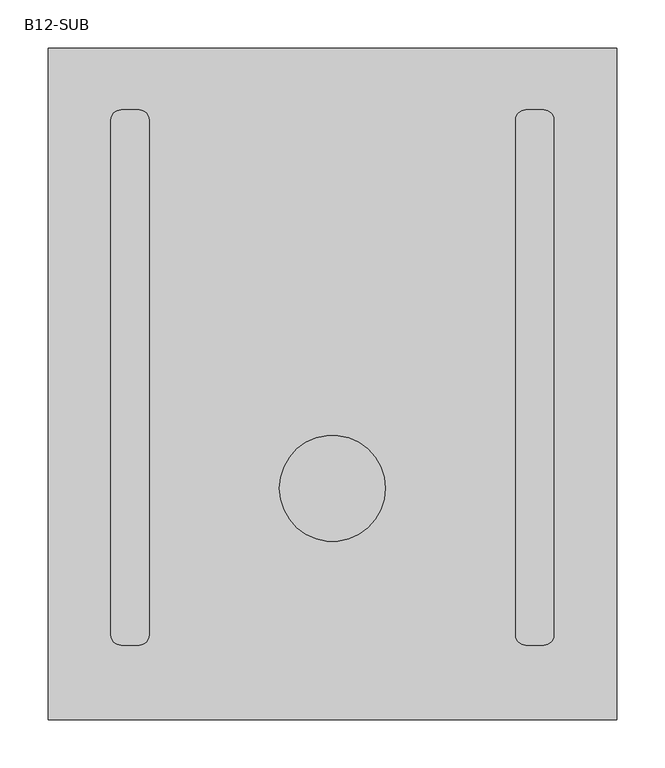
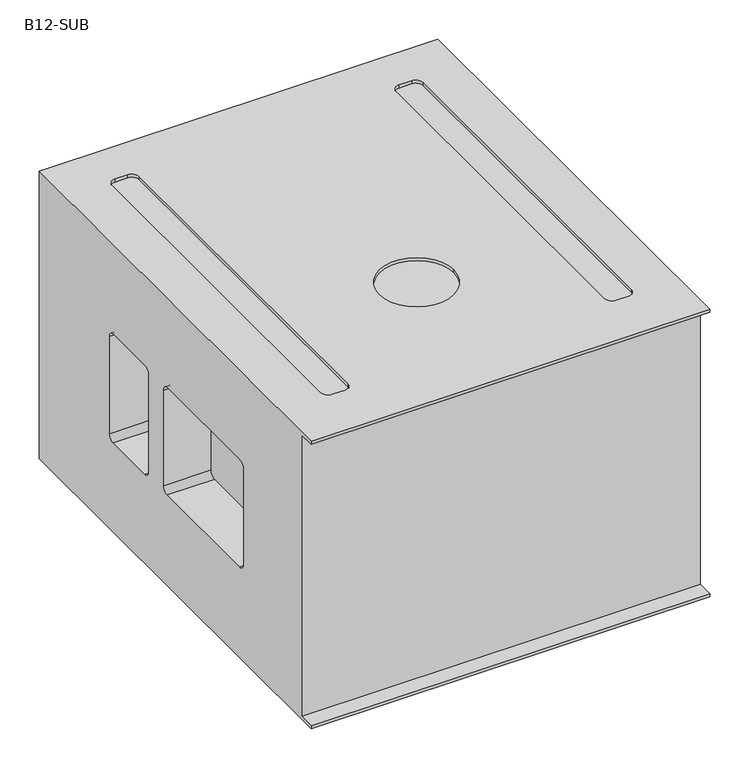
"""IFC4 building model written with IfcOpenShell, lengths in millimetres: proxy geometry, d&b CL-Series B12-SUB : B12-SUB."""

import ifcopenshell
import ifcopenshell.guid

model = None  # the IFC model being written
_history = None  # IfcOwnerHistory: only IFC2X3 demands one
_inside = {}  # id of a spatial element -> (the spatial element, [elements in it])
_under = {}  # id of a project, library or spatial element -> (it, [spatial elements below it])
_declared = {}  # id of a project -> (the project, [libraries it declares])
_typed = {}  # id of a type object -> (the type object, [elements of that type])
_made_of = {}  # id of a material, layer set ... -> (it, [elements and type objects made of it])


def new_model(schema):
    """Start an empty IFC model of exactly this schema.

    Asked for "IFC4X3", IfcOpenShell would pick the latest addendum, in which some entities
    have other attributes; the version numbers below select the first issue.
    IFC2X3 requires an IfcOwnerHistory on every rooted entity: one is made here for all.
    """
    global model, _history
    if schema == "IFC4X3":
        model = ifcopenshell.file(schema_version=(4, 3, 0, 0))
    else:
        model = ifcopenshell.file(schema=schema)
    _inside.clear()
    _under.clear()
    _declared.clear()
    _typed.clear()
    _made_of.clear()
    _history = None
    if model.schema == "IFC2X3":
        org = make("IfcOrganization", Name="unknown")
        user = make(
            "IfcPersonAndOrganization",
            ThePerson=make("IfcPerson", FamilyName="unknown"),
            TheOrganization=org,
        )
        app = make(
            "IfcApplication",
            ApplicationDeveloper=org,
            Version="unknown",
            ApplicationFullName="unknown",
            ApplicationIdentifier="unknown",
        )
        _history = make(
            "IfcOwnerHistory",
            OwningUser=user,
            OwningApplication=app,
            ChangeAction="ADDED",
            CreationDate=0,
        )
    return model


def make(cls, **values):
    """One entity of the class cls with the attributes given. An attribute that is None is left unset."""
    return model.create_entity(
        cls, **{name: value for name, value in values.items() if value is not None}
    )


def rooted(cls, **values):
    """An entity with a GlobalId (a new one), such as an element, a storey or a relation."""
    return make(cls, GlobalId=ifcopenshell.guid.new(), OwnerHistory=_history, **values)


def si_unit(unit_type, name, prefix=None):
    """IfcSIUnit, for example si_unit("LENGTHUNIT", "METRE", prefix="MILLI")."""
    return make("IfcSIUnit", UnitType=unit_type, Prefix=prefix, Name=name)


def assignment(units):
    """IfcUnitAssignment: the units of a project."""
    return None if units is None else make("IfcUnitAssignment", Units=units)


def point(xyz):
    """IfcCartesianPoint."""
    return None if xyz is None else make("IfcCartesianPoint", Coordinates=xyz)


def direction(xyz):
    """IfcDirection."""
    return None if xyz is None else make("IfcDirection", DirectionRatios=xyz)


def frame(location, z_axis=None, x_axis=None):
    """IfcAxis2Placement3D, a coordinate frame: its origin and axes. An axis left out is left unset."""
    return make(
        "IfcAxis2Placement3D",
        Location=point(location),
        Axis=direction(z_axis),
        RefDirection=direction(x_axis),
    )


def origin():
    """The frame at (0, 0, 0) with its axes left unset."""
    return frame((0.0, 0.0, 0.0))


def place(relative_to, where):
    """IfcLocalPlacement: puts the frame where relative to a parent placement (None: the world)."""
    return make(
        "IfcLocalPlacement", PlacementRelTo=relative_to, RelativePlacement=where
    )


def context(
    kind, dimensions, precision=None, world=None, true_north=None, identifier=None
):
    """IfcGeometricRepresentationContext, for example the 3D "Model" context."""
    return make(
        "IfcGeometricRepresentationContext",
        ContextIdentifier=identifier,
        ContextType=kind,
        CoordinateSpaceDimension=dimensions,
        Precision=precision,
        WorldCoordinateSystem=world,
        TrueNorth=true_north,
    )


def project(units=None, contexts=None):
    """IfcProject with its units and contexts."""
    return rooted(
        "IfcProject",
        Name="project",
        RepresentationContexts=contexts,
        UnitsInContext=assignment(units),
    )


def spatial(cls, under=None, at=None, **own):
    """A site, building, storey or space (cls), placed at a placement, below another one or the project."""
    s = rooted(cls, ObjectPlacement=at, **own)
    if under is not None:
        _under.setdefault(under.id(), (under, []))[1].append(s)
    return s


def polyline(points):
    """IfcPolyline through the points."""
    return make("IfcPolyline", Points=[point(p) for p in points])


def circle_curve(where, radius):
    """IfcCircle in the frame where."""
    return make("IfcCircle", Position=where, Radius=radius)


def shape(context_of_items, identifier, shape_type, items):
    """IfcShapeRepresentation: the items that make up one representation, for example the "Body"."""
    return make(
        "IfcShapeRepresentation",
        ContextOfItems=context_of_items,
        RepresentationIdentifier=identifier,
        RepresentationType=shape_type,
        Items=items,
    )


def source(mapping_origin, context_of_items, identifier, shape_type, items):
    """IfcRepresentationMap: a shape defined once, which mapped items show again and again."""
    return make(
        "IfcRepresentationMap",
        MappingOrigin=mapping_origin,
        MappedRepresentation=shape(context_of_items, identifier, shape_type, items),
    )


def transform(
    local_origin,
    x_axis=None,
    y_axis=None,
    z_axis=None,
    scale=None,
    scale2=None,
    scale3=None,
    uniform=True,
):
    """IfcCartesianTransformationOperator3D, or its non-uniform kind. x_axis, y_axis, z_axis: its Axis1, 2, 3."""
    if uniform:
        return make(
            "IfcCartesianTransformationOperator3D",
            Axis1=direction(x_axis),
            Axis2=direction(y_axis),
            LocalOrigin=point(local_origin),
            Scale=scale,
            Axis3=direction(z_axis),
        )
    return make(
        "IfcCartesianTransformationOperator3DnonUniform",
        Axis1=direction(x_axis),
        Axis2=direction(y_axis),
        LocalOrigin=point(local_origin),
        Scale=scale,
        Axis3=direction(z_axis),
        Scale2=scale2,
        Scale3=scale3,
    )


def mapped(mapping_source, mapping_target):
    """IfcMappedItem: shows the shape of a source again, moved by a transform."""
    return make(
        "IfcMappedItem", MappingSource=mapping_source, MappingTarget=mapping_target
    )


def made_of(thing, what):
    """Note that an element or type object is made of a material, layer set ...; save() writes the relation."""
    if what is not None:
        _made_of.setdefault(what.id(), (what, []))[1].append(thing)
    return thing


def element(
    cls,
    number,
    at=None,
    inside=None,
    cuts=None,
    type_object=None,
    material=None,
    context=None,
    identifier="Body",
    shape_type=None,
    held_by="IfcProductDefinitionShape",
    body=None,
    shapes=None,
    **own,
):
    """One element of the class cls, such as IfcWall. Its Tag is "e" and its number.

    at: its placement. inside: the storey or other place that contains it. cuts: it is an
    opening in that element (IfcRelVoidsElement). A single representation is given by context,
    identifier, shape_type and body (its items); several are given by shapes. held_by: the class
    of the entity that holds the representations. save() writes the other relations.
    """
    e = rooted(cls, Tag="e%d" % number, ObjectPlacement=at, **own)
    if body is not None:
        shapes = [shape(context, identifier, shape_type, body)]
    if shapes is not None:
        e.Representation = make(held_by, Representations=shapes)
    if inside is not None:
        _inside.setdefault(inside.id(), (inside, []))[1].append(e)
    if cuts is not None:
        rooted(
            "IfcRelVoidsElement", RelatingBuildingElement=cuts, RelatedOpeningElement=e
        )
    if type_object is not None:
        _typed.setdefault(type_object.id(), (type_object, []))[1].append(e)
    return made_of(e, material)


def aggregate(whole, parts):
    """IfcRelAggregates: a whole, such as a stair, and the parts it consists of."""
    return rooted("IfcRelAggregates", RelatingObject=whole, RelatedObjects=parts)


def save(model, path):
    """Write the relations noted so far, then the file.

    IfcRelAggregates (storeys below a building ...), IfcRelContainedInSpatialStructure (elements
    in a storey), IfcRelDefinesByType, IfcRelAssociatesMaterial and IfcRelDeclares: one each for
    every whole, place, type object, material and project.
    """
    for whole, parts in _under.values():
        aggregate(whole, parts)
    for where, things in _inside.values():
        rooted(
            "IfcRelContainedInSpatialStructure",
            RelatedElements=things,
            RelatingStructure=where,
        )
    for kind, things in _typed.values():
        rooted("IfcRelDefinesByType", RelatedObjects=things, RelatingType=kind)
    for what, things in _made_of.values():
        rooted("IfcRelAssociatesMaterial", RelatedObjects=things, RelatingMaterial=what)
    for by, libraries in _declared.values():
        rooted("IfcRelDeclares", RelatingContext=by, RelatedDefinitions=libraries)
    model.write(path)


def plane_surface(at):
    """IfcPlane: the flat surface through the origin of the frame at, square to its z axis."""
    return make("IfcPlane", Position=at)


def revolved_surface(curve, axis_point, axis_direction):
    """IfcSurfaceOfRevolution: the curve turned about the line through axis_point along axis_direction."""
    return make(
        "IfcSurfaceOfRevolution",
        SweptCurve=make("IfcArbitraryOpenProfileDef", ProfileType="CURVE", Curve=curve),
        AxisPosition=make("IfcAxis1Placement", Location=point(axis_point), Axis=direction(axis_direction)),
    )


def advanced_brep(points, edges, surfaces, faces):
    """IfcAdvancedBrep: a solid bounded by faces that lie on surfaces and meet in shared edges.

    An edge is (start, end): straight between two places in points (the first is 0);
    or (start, end, curve); or (start, end, curve, False) where it runs against its curve.
    A face is (place in surfaces, loops), or (place, loops, False) where it looks against
    its surface's normal. A loop lists edges by number (the first is 1), with a minus sign
    where the edge is run from its end to its start. The first loop is the outer one.
    """
    corners = [point(p) for p in points]
    vertices = [make("IfcVertexPoint", VertexGeometry=c) for c in corners]
    made = []
    for start, end, *more in edges:
        made.append(
            make(
                "IfcEdgeCurve",
                EdgeStart=vertices[start],
                EdgeEnd=vertices[end],
                EdgeGeometry=more[0] if more else make("IfcPolyline", Points=[corners[start], corners[end]]),
                SameSense=more[1] if len(more) > 1 else True,
            )
        )
    hull = []
    for where, loops, *sense in faces:
        bounds = []
        for j, loop in enumerate(loops):
            ring = [make("IfcOrientedEdge", EdgeElement=made[abs(k) - 1], Orientation=k > 0) for k in loop]
            bounds.append(
                make(
                    "IfcFaceOuterBound" if j == 0 else "IfcFaceBound",
                    Bound=make("IfcEdgeLoop", EdgeList=ring),
                    Orientation=True,
                )
            )
        hull.append(make("IfcAdvancedFace", Bounds=bounds, FaceSurface=surfaces[where], SameSense=sense[0] if sense else True))
    return make("IfcAdvancedBrep", Outer=make("IfcClosedShell", CfsFaces=hull))


def b12_sub_46f5f9e7(model_context):
    return source(origin(), model_context, "Body", "AdvancedBrep", [
        advanced_brep(
        [(2795.0, -60.7494027, 5.0), (2205.0, -60.7494027, 5.0), (2205.0, 636.2505973, 5.0), (2795.0, 636.2505973, 5.0), (2309.8, 561.7505973, 450.0), (2299.3, 572.2505973, 450.0), (2280.7, 572.2505973, 450.0), (2270.2, 561.7505973, 450.0), (2270.2, 27.1505973, 450.0), (2280.7, 16.6505973, 450.0), (2299.3, 16.6505973, 450.0), (2309.8, 27.1505973, 450.0), (2445.0, 179.4505973, 450.0), (2555.0, 179.4505973, 450.0), (2719.3, 572.2505973, 450.0), (2700.7, 572.2505973, 450.0), (2690.2, 561.7505973, 450.0), (2690.2, 27.1505973, 450.0), (2700.7, 16.6505973, 450.0), (2719.3, 16.6505973, 450.0), (2729.8, 27.1505973, 450.0), (2729.8, 561.7505973, 450.0), (2795.0, 636.2505973, 455.0), (2205.0, 636.2505973, 455.0), (2205.0, -60.7494027, 455.0), (2795.0, -60.7494027, 455.0), (2299.3, 572.2505973, 455.0), (2309.8, 561.7505973, 455.0), (2309.8, 27.1505973, 455.0), (2299.3, 16.6505973, 455.0), (2280.7, 16.6505973, 455.0), (2270.2, 27.1505973, 455.0), (2270.2, 561.7505973, 455.0), (2280.7, 572.2505973, 455.0), (2555.0, 179.4505973, 455.0), (2445.0, 179.4505973, 455.0), (2700.7, 572.2505973, 455.0), (2719.3, 572.2505973, 455.0), (2729.8, 561.7505973, 455.0), (2729.8, 27.1505973, 455.0), (2719.3, 16.6505973, 455.0), (2700.7, 16.6505973, 455.0), (2690.2, 27.1505973, 455.0), (2690.2, 561.7505973, 455.0), (2718.5, 631.2505973, 271.0), (2729.0, 631.2505973, 260.5), (2729.0, 631.2505973, 159.5), (2718.5, 631.2505973, 149.0), (2674.5, 631.2505973, 149.0), (2664.0, 631.2505973, 159.5), (2664.0, 631.2505973, 260.5), (2674.5, 631.2505973, 271.0), (2281.5, 631.2505973, 271.0), (2325.5, 631.2505973, 271.0), (2336.0, 631.2505973, 260.5), (2336.0, 631.2505973, 159.5), (2325.5, 631.2505973, 149.0), (2281.5, 631.2505973, 149.0), (2271.0, 631.2505973, 159.5), (2271.0, 631.2505973, 260.5), (2795.0, -36.5494027, 450.0), (2205.0, -36.5494027, 450.0), (2205.0, -36.5494027, 10.0), (2795.0, -36.5494027, 10.0), (2725.0, 455.2505973, 306.2), (2725.0, 446.2505973, 315.2), (2725.0, 365.2505973, 315.2), (2725.0, 356.2505973, 306.2), (2725.0, 356.2505973, 154.2), (2725.0, 365.2505973, 145.2), (2725.0, 446.2505973, 145.2), (2725.0, 455.2505973, 154.2), (2725.0, 316.7505973, 306.2), (2725.0, 307.7505973, 315.2), (2725.0, 121.7505973, 315.2), (2725.0, 112.7505973, 306.2), (2725.0, 112.7505973, 156.7), (2725.0, 121.7505973, 147.7), (2725.0, 307.7505973, 147.7), (2725.0, 316.7505973, 156.7), (2795.0, -60.7494027, 450.0), (2205.0, -60.7494027, 450.0), (2325.5, 636.2505973, 271.0), (2281.5, 636.2505973, 271.0), (2271.0, 636.2505973, 260.5), (2271.0, 636.2505973, 159.5), (2281.5, 636.2505973, 149.0), (2325.5, 636.2505973, 149.0), (2336.0, 636.2505973, 159.5), (2336.0, 636.2505973, 260.5), (2729.0, 636.2505973, 260.5), (2718.5, 636.2505973, 271.0), (2674.5, 636.2505973, 271.0), (2664.0, 636.2505973, 260.5), (2664.0, 636.2505973, 159.5), (2674.5, 636.2505973, 149.0), (2718.5, 636.2505973, 149.0), (2729.0, 636.2505973, 159.5), (2625.0, 636.2505973, 145.0), (2625.0, 636.2505973, 395.0), (2612.0, 636.2505973, 408.0), (2388.0, 636.2505973, 408.0), (2375.0, 636.2505973, 395.0), (2375.0, 636.2505973, 145.0), (2388.0, 636.2505973, 132.0), (2612.0, 636.2505973, 132.0), (2549.4918854, 636.2505973, 42.6706286), (2558.1852178, 636.2505973, 36.0), (2617.0, 636.2505973, 36.0), (2626.0, 636.2505973, 45.0), (2626.0, 636.2505973, 120.0), (2617.0, 636.2505973, 129.0), (2538.0890284, 636.2505973, 129.0), (2529.3956959, 636.2505973, 117.6706286), (2450.5081146, 636.2505973, 42.6706286), (2470.6043041, 636.2505973, 117.6706286), (2461.9109716, 636.2505973, 129.0), (2383.0, 636.2505973, 129.0), (2374.0, 636.2505973, 120.0), (2374.0, 636.2505973, 45.0), (2383.0, 636.2505973, 36.0), (2441.8147822, 636.2505973, 36.0), (2275.0, 446.2505973, 315.2), (2275.0, 455.2505973, 306.2), (2275.0, 455.2505973, 154.2), (2275.0, 446.2505973, 145.2), (2275.0, 365.2505973, 145.2), (2275.0, 356.2505973, 154.2), (2275.0, 356.2505973, 306.2), (2275.0, 365.2505973, 315.2), (2275.0, 307.7505973, 315.2), (2275.0, 316.7505973, 306.2), (2275.0, 316.7505973, 156.7), (2275.0, 307.7505973, 147.7), (2275.0, 121.7505973, 147.7), (2275.0, 112.7505973, 156.7), (2275.0, 112.7505973, 306.2), (2275.0, 121.7505973, 315.2), (2795.0, -60.7494027, 10.0), (2795.0, 446.2505973, 315.2), (2795.0, 455.2505973, 306.2), (2795.0, 455.2505973, 154.2), (2795.0, 446.2505973, 145.2), (2795.0, 365.2505973, 145.2), (2795.0, 356.2505973, 154.2), (2795.0, 356.2505973, 306.2), (2795.0, 365.2505973, 315.2), (2795.0, 307.7505973, 315.2), (2795.0, 316.7505973, 306.2), (2795.0, 316.7505973, 156.7), (2795.0, 307.7505973, 147.7), (2795.0, 121.7505973, 147.7), (2795.0, 112.7505973, 156.7), (2795.0, 112.7505973, 306.2), (2795.0, 121.7505973, 315.2), (2205.0, -60.7494027, 10.0), (2205.0, 446.2505973, 315.2), (2205.0, 365.2505973, 315.2), (2205.0, 356.2505973, 306.2), (2205.0, 356.2505973, 154.2), (2205.0, 365.2505973, 145.2), (2205.0, 446.2505973, 145.2), (2205.0, 455.2505973, 154.2), (2205.0, 455.2505973, 306.2), (2205.0, 307.7505973, 315.2), (2205.0, 121.7505973, 315.2), (2205.0, 112.7505973, 306.2), (2205.0, 112.7505973, 156.7), (2205.0, 121.7505973, 147.7), (2205.0, 307.7505973, 147.7), (2205.0, 316.7505973, 156.7), (2205.0, 316.7505973, 306.2), (2625.0, 631.2505973, 395.0), (2625.0, 631.2505973, 145.0), (2612.0, 631.2505973, 132.0), (2388.0, 631.2505973, 132.0), (2375.0, 631.2505973, 145.0), (2375.0, 631.2505973, 395.0), (2388.0, 631.2505973, 408.0), (2612.0, 631.2505973, 408.0), (2558.1852178, 631.2505973, 36.0), (2549.4918854, 631.2505973, 42.6706286), (2529.3956959, 631.2505973, 117.6706286), (2538.0890284, 631.2505973, 129.0), (2617.0, 631.2505973, 129.0), (2626.0, 631.2505973, 120.0), (2626.0, 631.2505973, 45.0), (2617.0, 631.2505973, 36.0), (2470.6043041, 631.2505973, 117.6706286), (2450.5081146, 631.2505973, 42.6706286), (2441.8147822, 631.2505973, 36.0), (2383.0, 631.2505973, 36.0), (2374.0, 631.2505973, 45.0), (2374.0, 631.2505973, 120.0), (2383.0, 631.2505973, 129.0), (2461.9109716, 631.2505973, 129.0)],
        [
            (0, 1),
            (1, 2),
            (2, 3),
            (3, 0),
            (4, 5, circle_curve(frame((2299.3, 561.7505973, 450.0), z_axis=(0.0, 0.0, 1.0), x_axis=(-1.0, 0.0, 0.0)), 10.5)),
            (5, 6),
            (6, 7, circle_curve(frame((2280.7, 561.7505973, 450.0), z_axis=(0.0, 0.0, 1.0), x_axis=(-1.0, 0.0, 0.0)), 10.5)),
            (7, 8),
            (8, 9, circle_curve(frame((2280.7, 27.1505973, 450.0), z_axis=(0.0, 0.0, 1.0), x_axis=(-1.0, 0.0, 0.0)), 10.5)),
            (9, 10),
            (10, 11, circle_curve(frame((2299.3, 27.1505973, 450.0), z_axis=(0.0, 0.0, 1.0), x_axis=(-1.0, 0.0, 0.0)), 10.5)),
            (11, 4),
            (12, 13, circle_curve(frame((2500.0, 179.4505973, 450.0), z_axis=(0.0, 0.0, 1.0), x_axis=(-1.0, 0.0, 0.0)), 55.0)),
            (13, 12, circle_curve(frame((2500.0, 179.4505973, 450.0), z_axis=(0.0, 0.0, 1.0), x_axis=(-1.0, 0.0, 0.0)), 55.0)),
            (14, 15),
            (15, 16, circle_curve(frame((2700.7, 561.7505973, 450.0), z_axis=(0.0, 0.0, 1.0), x_axis=(-1.0, 0.0, 0.0)), 10.5)),
            (16, 17),
            (17, 18, circle_curve(frame((2700.7, 27.1505973, 450.0), z_axis=(0.0, 0.0, 1.0), x_axis=(-1.0, 0.0, 0.0)), 10.5)),
            (18, 19),
            (19, 20, circle_curve(frame((2719.3, 27.1505973, 450.0), z_axis=(0.0, 0.0, 1.0), x_axis=(-1.0, 0.0, 0.0)), 10.5)),
            (20, 21),
            (21, 14, circle_curve(frame((2719.3, 561.7505973, 450.0), z_axis=(0.0, 0.0, 1.0), x_axis=(-1.0, 0.0, 0.0)), 10.5)),
            (22, 23),
            (23, 24),
            (24, 25),
            (25, 22),
            (26, 27, circle_curve(frame((2299.3, 561.7505973, 455.0), z_axis=(0.0, 0.0, -1.0), x_axis=(-1.0, 0.0, 0.0)), 10.5)),
            (27, 28),
            (28, 29, circle_curve(frame((2299.3, 27.1505973, 455.0), z_axis=(0.0, 0.0, -1.0), x_axis=(-1.0, 0.0, 0.0)), 10.5)),
            (29, 30),
            (30, 31, circle_curve(frame((2280.7, 27.1505973, 455.0), z_axis=(0.0, 0.0, -1.0), x_axis=(-1.0, 0.0, 0.0)), 10.5)),
            (31, 32),
            (32, 33, circle_curve(frame((2280.7, 561.7505973, 455.0), z_axis=(0.0, 0.0, -1.0), x_axis=(-1.0, 0.0, 0.0)), 10.5)),
            (33, 26),
            (34, 35, circle_curve(frame((2500.0, 179.4505973, 455.0), z_axis=(0.0, 0.0, -1.0), x_axis=(-1.0, 0.0, 0.0)), 55.0)),
            (35, 34, circle_curve(frame((2500.0, 179.4505973, 455.0), z_axis=(0.0, 0.0, -1.0), x_axis=(-1.0, 0.0, 0.0)), 55.0)),
            (36, 37),
            (37, 38, circle_curve(frame((2719.3, 561.7505973, 455.0), z_axis=(0.0, 0.0, -1.0), x_axis=(-1.0, 0.0, 0.0)), 10.5)),
            (38, 39),
            (39, 40, circle_curve(frame((2719.3, 27.1505973, 455.0), z_axis=(0.0, 0.0, -1.0), x_axis=(-1.0, 0.0, 0.0)), 10.5)),
            (40, 41),
            (41, 42, circle_curve(frame((2700.7, 27.1505973, 455.0), z_axis=(0.0, 0.0, -1.0), x_axis=(-1.0, 0.0, 0.0)), 10.5)),
            (42, 43),
            (43, 36, circle_curve(frame((2700.7, 561.7505973, 455.0), z_axis=(0.0, 0.0, -1.0), x_axis=(-1.0, 0.0, 0.0)), 10.5)),
            (26, 5),
            (4, 27),
            (11, 28),
            (10, 29),
            (9, 30),
            (8, 31),
            (7, 32),
            (33, 6),
            (44, 45, circle_curve(frame((2718.5, 631.2505973, 260.5), z_axis=(0.0, 1.0, 0.0), x_axis=(-1.0, 0.0, 0.0)), 10.5)),
            (45, 46),
            (46, 47, circle_curve(frame((2718.5, 631.2505973, 159.5), z_axis=(0.0, 1.0, 0.0), x_axis=(-1.0, 0.0, 0.0)), 10.5)),
            (47, 48),
            (48, 49, circle_curve(frame((2674.5, 631.2505973, 159.5), z_axis=(0.0, 1.0, 0.0), x_axis=(-1.0, 0.0, 0.0)), 10.5)),
            (49, 50),
            (50, 51, circle_curve(frame((2674.5, 631.2505973, 260.5), z_axis=(0.0, 1.0, 0.0), x_axis=(-1.0, 0.0, 0.0)), 10.5)),
            (51, 44),
            (52, 53),
            (53, 54, circle_curve(frame((2325.5, 631.2505973, 260.5), z_axis=(0.0, 1.0, 0.0), x_axis=(-1.0, 0.0, 0.0)), 10.5)),
            (54, 55),
            (55, 56, circle_curve(frame((2325.5, 631.2505973, 159.5), z_axis=(0.0, 1.0, 0.0), x_axis=(-1.0, 0.0, 0.0)), 10.5)),
            (56, 57),
            (57, 58, circle_curve(frame((2281.5, 631.2505973, 159.5), z_axis=(0.0, 1.0, 0.0), x_axis=(-1.0, 0.0, 0.0)), 10.5)),
            (58, 59),
            (59, 52, circle_curve(frame((2281.5, 631.2505973, 260.5), z_axis=(0.0, 1.0, 0.0), x_axis=(-1.0, 0.0, 0.0)), 10.5)),
            (60, 61),
            (61, 62),
            (62, 63),
            (63, 60),
            (64, 65, circle_curve(frame((2725.0, 446.2505973, 306.2), z_axis=(1.0, 0.0, 0.0), x_axis=(0.0, 0.0, 1.0)), 9.0)),
            (65, 66),
            (66, 67, circle_curve(frame((2725.0, 365.2505973, 306.2), z_axis=(1.0, 0.0, 0.0), x_axis=(0.0, 0.0, 1.0)), 9.0)),
            (67, 68),
            (68, 69, circle_curve(frame((2725.0, 365.2505973, 154.2), z_axis=(1.0, 0.0, 0.0), x_axis=(0.0, 0.0, 1.0)), 9.0)),
            (69, 70),
            (70, 71, circle_curve(frame((2725.0, 446.2505973, 154.2), z_axis=(1.0, 0.0, 0.0), x_axis=(0.0, 0.0, 1.0)), 9.0)),
            (71, 64),
            (72, 73, circle_curve(frame((2725.0, 307.7505973, 306.2), z_axis=(1.0, 0.0, 0.0), x_axis=(0.0, 0.0, 1.0)), 9.0)),
            (73, 74),
            (74, 75, circle_curve(frame((2725.0, 121.7505973, 306.2), z_axis=(1.0, 0.0, 0.0), x_axis=(0.0, 0.0, 1.0)), 9.0)),
            (75, 76),
            (76, 77, circle_curve(frame((2725.0, 121.7505973, 156.7), z_axis=(1.0, 0.0, 0.0), x_axis=(0.0, 0.0, 1.0)), 9.0)),
            (77, 78),
            (78, 79, circle_curve(frame((2725.0, 307.7505973, 156.7), z_axis=(1.0, 0.0, 0.0), x_axis=(0.0, 0.0, 1.0)), 9.0)),
            (79, 72),
            (34, 13),
            (12, 35),
            (80, 81),
            (81, 61),
            (60, 80),
            (36, 15),
            (14, 37),
            (21, 38),
            (20, 39),
            (19, 40),
            (18, 41),
            (17, 42),
            (16, 43),
            (2, 23),
            (22, 3),
            (82, 83),
            (83, 84, circle_curve(frame((2281.5, 636.2505973, 260.5), z_axis=(0.0, -1.0, 0.0), x_axis=(-1.0, 0.0, 0.0)), 10.5)),
            (84, 85),
            (85, 86, circle_curve(frame((2281.5, 636.2505973, 159.5), z_axis=(0.0, -1.0, 0.0), x_axis=(-1.0, 0.0, 0.0)), 10.5)),
            (86, 87),
            (87, 88, circle_curve(frame((2325.5, 636.2505973, 159.5), z_axis=(0.0, -1.0, 0.0), x_axis=(-1.0, 0.0, 0.0)), 10.5)),
            (88, 89),
            (89, 82, circle_curve(frame((2325.5, 636.2505973, 260.5), z_axis=(0.0, -1.0, 0.0), x_axis=(-1.0, 0.0, 0.0)), 10.5)),
            (90, 91, circle_curve(frame((2718.5, 636.2505973, 260.5), z_axis=(0.0, -1.0, 0.0), x_axis=(-1.0, 0.0, 0.0)), 10.5)),
            (91, 92),
            (92, 93, circle_curve(frame((2674.5, 636.2505973, 260.5), z_axis=(0.0, -1.0, 0.0), x_axis=(-1.0, 0.0, 0.0)), 10.5)),
            (93, 94),
            (94, 95, circle_curve(frame((2674.5, 636.2505973, 159.5), z_axis=(0.0, -1.0, 0.0), x_axis=(-1.0, 0.0, 0.0)), 10.5)),
            (95, 96),
            (96, 97, circle_curve(frame((2718.5, 636.2505973, 159.5), z_axis=(0.0, -1.0, 0.0), x_axis=(-1.0, 0.0, 0.0)), 10.5)),
            (97, 90),
            (98, 99),
            (99, 100, circle_curve(frame((2612.0, 636.2505973, 395.0), z_axis=(0.0, -1.0, 0.0), x_axis=(-1.0, 0.0, 0.0)), 13.0)),
            (100, 101),
            (101, 102, circle_curve(frame((2388.0, 636.2505973, 395.0), z_axis=(0.0, -1.0, 0.0), x_axis=(-1.0, 0.0, 0.0)), 13.0)),
            (102, 103),
            (103, 104, circle_curve(frame((2388.0, 636.2505973, 145.0), z_axis=(0.0, -1.0, 0.0), x_axis=(-1.0, 0.0, 0.0)), 13.0)),
            (104, 105),
            (105, 98, circle_curve(frame((2612.0, 636.2505973, 145.0), z_axis=(0.0, -1.0, 0.0), x_axis=(-1.0, 0.0, 0.0)), 13.0)),
            (106, 107, circle_curve(frame((2558.1852178, 636.2505973, 45.0), z_axis=(0.0, -1.0, 0.0), x_axis=(-1.0, 0.0, 0.0)), 9.0)),
            (107, 108),
            (108, 109, circle_curve(frame((2617.0, 636.2505973, 45.0), z_axis=(0.0, -1.0, 0.0), x_axis=(-1.0, 0.0, 0.0)), 9.0)),
            (109, 110),
            (110, 111, circle_curve(frame((2617.0, 636.2505973, 120.0), z_axis=(0.0, -1.0, 0.0), x_axis=(-1.0, 0.0, 0.0)), 9.0)),
            (111, 112),
            (112, 113, circle_curve(frame((2538.0890284, 636.2505973, 120.0), z_axis=(0.0, -1.0, 0.0), x_axis=(-1.0, 0.0, 0.0)), 9.0)),
            (113, 106),
            (114, 115),
            (115, 116, circle_curve(frame((2461.9109716, 636.2505973, 120.0), z_axis=(0.0, -1.0, 0.0), x_axis=(-1.0, 0.0, 0.0)), 9.0)),
            (116, 117),
            (117, 118, circle_curve(frame((2383.0, 636.2505973, 120.0), z_axis=(0.0, -1.0, 0.0), x_axis=(-1.0, 0.0, 0.0)), 9.0)),
            (118, 119),
            (119, 120, circle_curve(frame((2383.0, 636.2505973, 45.0), z_axis=(0.0, -1.0, 0.0), x_axis=(-1.0, 0.0, 0.0)), 9.0)),
            (120, 121),
            (121, 114, circle_curve(frame((2441.8147822, 636.2505973, 45.0), z_axis=(0.0, -1.0, 0.0), x_axis=(-1.0, 0.0, 0.0)), 9.0)),
            (122, 123, circle_curve(frame((2275.0, 446.2505973, 306.2), z_axis=(-1.0, 0.0, 0.0), x_axis=(0.0, 0.0, 1.0)), 9.0)),
            (123, 124),
            (124, 125, circle_curve(frame((2275.0, 446.2505973, 154.2), z_axis=(-1.0, 0.0, 0.0), x_axis=(0.0, 0.0, 1.0)), 9.0)),
            (125, 126),
            (126, 127, circle_curve(frame((2275.0, 365.2505973, 154.2), z_axis=(-1.0, 0.0, 0.0), x_axis=(0.0, 0.0, 1.0)), 9.0)),
            (127, 128),
            (128, 129, circle_curve(frame((2275.0, 365.2505973, 306.2), z_axis=(-1.0, 0.0, 0.0), x_axis=(0.0, 0.0, 1.0)), 9.0)),
            (129, 122),
            (130, 131, circle_curve(frame((2275.0, 307.7505973, 306.2), z_axis=(-1.0, 0.0, 0.0), x_axis=(0.0, 0.0, 1.0)), 9.0)),
            (131, 132),
            (132, 133, circle_curve(frame((2275.0, 307.7505973, 156.7), z_axis=(-1.0, 0.0, 0.0), x_axis=(0.0, 0.0, 1.0)), 9.0)),
            (133, 134),
            (134, 135, circle_curve(frame((2275.0, 121.7505973, 156.7), z_axis=(-1.0, 0.0, 0.0), x_axis=(0.0, 0.0, 1.0)), 9.0)),
            (135, 136),
            (136, 137, circle_curve(frame((2275.0, 121.7505973, 306.2), z_axis=(-1.0, 0.0, 0.0), x_axis=(0.0, 0.0, 1.0)), 9.0)),
            (137, 130),
            (25, 80),
            (63, 138),
            (138, 0),
            (139, 140, circle_curve(frame((2795.0, 446.2505973, 306.2), z_axis=(-1.0, 0.0, 0.0), x_axis=(0.0, 0.0, 1.0)), 9.0)),
            (140, 141),
            (141, 142, circle_curve(frame((2795.0, 446.2505973, 154.2), z_axis=(-1.0, 0.0, 0.0), x_axis=(0.0, 0.0, 1.0)), 9.0)),
            (142, 143),
            (143, 144, circle_curve(frame((2795.0, 365.2505973, 154.2), z_axis=(-1.0, 0.0, 0.0), x_axis=(0.0, 0.0, 1.0)), 9.0)),
            (144, 145),
            (145, 146, circle_curve(frame((2795.0, 365.2505973, 306.2), z_axis=(-1.0, 0.0, 0.0), x_axis=(0.0, 0.0, 1.0)), 9.0)),
            (146, 139),
            (147, 148, circle_curve(frame((2795.0, 307.7505973, 306.2), z_axis=(-1.0, 0.0, 0.0), x_axis=(0.0, 0.0, 1.0)), 9.0)),
            (148, 149),
            (149, 150, circle_curve(frame((2795.0, 307.7505973, 156.7), z_axis=(-1.0, 0.0, 0.0), x_axis=(0.0, 0.0, 1.0)), 9.0)),
            (150, 151),
            (151, 152, circle_curve(frame((2795.0, 121.7505973, 156.7), z_axis=(-1.0, 0.0, 0.0), x_axis=(0.0, 0.0, 1.0)), 9.0)),
            (152, 153),
            (153, 154, circle_curve(frame((2795.0, 121.7505973, 306.2), z_axis=(-1.0, 0.0, 0.0), x_axis=(0.0, 0.0, 1.0)), 9.0)),
            (154, 147),
            (139, 65),
            (64, 140),
            (71, 141),
            (70, 142),
            (69, 143),
            (68, 144),
            (67, 145),
            (66, 146),
            (147, 73),
            (72, 148),
            (79, 149),
            (78, 150),
            (77, 151),
            (76, 152),
            (75, 153),
            (74, 154),
            (1, 155),
            (155, 62),
            (81, 24),
            (156, 157),
            (157, 158, circle_curve(frame((2205.0, 365.2505973, 306.2), z_axis=(1.0, 0.0, 0.0), x_axis=(0.0, 0.0, 1.0)), 9.0)),
            (158, 159),
            (159, 160, circle_curve(frame((2205.0, 365.2505973, 154.2), z_axis=(1.0, 0.0, 0.0), x_axis=(0.0, 0.0, 1.0)), 9.0)),
            (160, 161),
            (161, 162, circle_curve(frame((2205.0, 446.2505973, 154.2), z_axis=(1.0, 0.0, 0.0), x_axis=(0.0, 0.0, 1.0)), 9.0)),
            (162, 163),
            (163, 156, circle_curve(frame((2205.0, 446.2505973, 306.2), z_axis=(1.0, 0.0, 0.0), x_axis=(0.0, 0.0, 1.0)), 9.0)),
            (164, 165),
            (165, 166, circle_curve(frame((2205.0, 121.7505973, 306.2), z_axis=(1.0, 0.0, 0.0), x_axis=(0.0, 0.0, 1.0)), 9.0)),
            (166, 167),
            (167, 168, circle_curve(frame((2205.0, 121.7505973, 156.7), z_axis=(1.0, 0.0, 0.0), x_axis=(0.0, 0.0, 1.0)), 9.0)),
            (168, 169),
            (169, 170, circle_curve(frame((2205.0, 307.7505973, 156.7), z_axis=(1.0, 0.0, 0.0), x_axis=(0.0, 0.0, 1.0)), 9.0)),
            (170, 171),
            (171, 164, circle_curve(frame((2205.0, 307.7505973, 306.2), z_axis=(1.0, 0.0, 0.0), x_axis=(0.0, 0.0, 1.0)), 9.0)),
            (163, 123),
            (122, 156),
            (162, 124),
            (161, 125),
            (160, 126),
            (159, 127),
            (158, 128),
            (157, 129),
            (171, 131),
            (130, 164),
            (170, 132),
            (169, 133),
            (168, 134),
            (167, 135),
            (166, 136),
            (165, 137),
            (44, 91),
            (90, 45),
            (97, 46),
            (96, 47),
            (95, 48),
            (94, 49),
            (93, 50),
            (92, 51),
            (52, 83),
            (82, 53),
            (89, 54),
            (88, 55),
            (87, 56),
            (86, 57),
            (85, 58),
            (84, 59),
            (172, 173),
            (173, 174, circle_curve(frame((2612.0, 631.2505973, 145.0), z_axis=(0.0, 1.0, 0.0), x_axis=(-1.0, 0.0, 0.0)), 13.0)),
            (174, 175),
            (175, 176, circle_curve(frame((2388.0, 631.2505973, 145.0), z_axis=(0.0, 1.0, 0.0), x_axis=(-1.0, 0.0, 0.0)), 13.0)),
            (176, 177),
            (177, 178, circle_curve(frame((2388.0, 631.2505973, 395.0), z_axis=(0.0, 1.0, 0.0), x_axis=(-1.0, 0.0, 0.0)), 13.0)),
            (178, 179),
            (179, 172, circle_curve(frame((2612.0, 631.2505973, 395.0), z_axis=(0.0, 1.0, 0.0), x_axis=(-1.0, 0.0, 0.0)), 13.0)),
            (180, 181, circle_curve(frame((2558.1852178, 631.2505973, 45.0), z_axis=(0.0, 1.0, 0.0), x_axis=(-1.0, 0.0, 0.0)), 9.0)),
            (181, 182),
            (182, 183, circle_curve(frame((2538.0890284, 631.2505973, 120.0), z_axis=(0.0, 1.0, 0.0), x_axis=(-1.0, 0.0, 0.0)), 9.0)),
            (183, 184),
            (184, 185, circle_curve(frame((2617.0, 631.2505973, 120.0), z_axis=(0.0, 1.0, 0.0), x_axis=(-1.0, 0.0, 0.0)), 9.0)),
            (185, 186),
            (186, 187, circle_curve(frame((2617.0, 631.2505973, 45.0), z_axis=(0.0, 1.0, 0.0), x_axis=(-1.0, 0.0, 0.0)), 9.0)),
            (187, 180),
            (188, 189),
            (189, 190, circle_curve(frame((2441.8147822, 631.2505973, 45.0), z_axis=(0.0, 1.0, 0.0), x_axis=(-1.0, 0.0, 0.0)), 9.0)),
            (190, 191),
            (191, 192, circle_curve(frame((2383.0, 631.2505973, 45.0), z_axis=(0.0, 1.0, 0.0), x_axis=(-1.0, 0.0, 0.0)), 9.0)),
            (192, 193),
            (193, 194, circle_curve(frame((2383.0, 631.2505973, 120.0), z_axis=(0.0, 1.0, 0.0), x_axis=(-1.0, 0.0, 0.0)), 9.0)),
            (194, 195),
            (195, 188, circle_curve(frame((2461.9109716, 631.2505973, 120.0), z_axis=(0.0, 1.0, 0.0), x_axis=(-1.0, 0.0, 0.0)), 9.0)),
            (172, 99),
            (98, 173),
            (105, 174),
            (104, 175),
            (178, 101),
            (100, 179),
            (177, 102),
            (103, 176),
            (180, 107),
            (106, 181),
            (113, 182),
            (112, 183),
            (111, 184),
            (110, 185),
            (109, 186),
            (108, 187),
            (188, 115),
            (114, 189),
            (121, 190),
            (120, 191),
            (119, 192),
            (118, 193),
            (117, 194),
            (116, 195),
            (155, 138),
        ],
        [
            plane_surface(frame((2725.0, 852.7005973, 5.0), z_axis=(0.0, 0.0, -1.0), x_axis=(0.0, -1.0, 0.0))),
            plane_surface(frame((2725.0, 852.7005973, 450.0), z_axis=(0.0, 0.0, 1.0), x_axis=(0.0, 1.0, 0.0))),
            plane_surface(frame((1715.924767, 636.2505973, 455.0), z_axis=(0.0, 0.0, 1.0), x_axis=(-1.0, 0.0, 0.0))),
            revolved_surface(polyline([(2288.8, 561.7505973, 450.0), (2288.8, 561.7505973, 455.0)]), (2299.3, 561.7505973, 455.0), (0.0, 0.0, -1.0)),
            plane_surface(frame((2309.8, 561.7505973, 455.0), z_axis=(-1.0, 0.0, 0.0), x_axis=(0.0, 0.0, -1.0))),
            revolved_surface(polyline([(2288.8, 27.1505973, 450.0), (2288.8, 27.1505973, 455.0)]), (2299.3, 27.1505973, 455.0), (0.0, 0.0, -1.0)),
            plane_surface(frame((2299.3, 16.6505973, 455.0), z_axis=(0.0, 1.0, 0.0), x_axis=(0.0, 0.0, -1.0))),
            revolved_surface(polyline([(2270.2, 27.1505973, 450.0), (2270.2, 27.1505973, 455.0)]), (2280.7, 27.1505973, 455.0), (0.0, 0.0, -1.0)),
            plane_surface(frame((2270.2, 27.1505973, 455.0), z_axis=(1.0, 0.0, 0.0), x_axis=(0.0, 0.0, -1.0))),
            plane_surface(frame((2280.7, 572.2505973, 455.0), z_axis=(0.0, -1.0, 0.0), x_axis=(0.0, 0.0, -1.0))),
            plane_surface(frame((2708.0, 631.2505973, 260.5), z_axis=(0.0, 1.0, 0.0), x_axis=(0.0, 0.0, -1.0))),
            plane_surface(frame((2275.0, -36.5494027, 450.0), z_axis=(0.0, -1.0, 0.0), x_axis=(0.0, 0.0, -1.0))),
            plane_surface(frame((2725.0, -36.5494027, 450.0), z_axis=(1.0, 0.0, 0.0), x_axis=(0.0, 0.0, -1.0))),
            revolved_surface(polyline([(2445.0, 179.4505973, 450.0), (2445.0, 179.4505973, 455.0)]), (2500.0, 179.4505973, 455.0), (0.0, 0.0, -1.0)),
            plane_surface(frame((1715.924767, 636.2505973, 450.0), z_axis=(0.0, 0.0, -1.0), x_axis=(1.0, 0.0, 0.0))),
            revolved_surface(polyline([(2270.2, 561.7505973, 450.0), (2270.2, 561.7505973, 455.0)]), (2280.7, 561.7505973, 455.0), (0.0, 0.0, -1.0)),
            plane_surface(frame((2700.7, 572.2505973, 455.0), z_axis=(0.0, -1.0, 0.0), x_axis=(0.0, 0.0, -1.0))),
            revolved_surface(polyline([(2708.8, 561.7505973, 450.0), (2708.8, 561.7505973, 455.0)]), (2719.3, 561.7505973, 455.0), (0.0, 0.0, -1.0)),
            plane_surface(frame((2729.8, 561.7505973, 455.0), z_axis=(-1.0, 0.0, 0.0), x_axis=(0.0, 0.0, -1.0))),
            revolved_surface(polyline([(2708.8, 27.1505973, 450.0), (2708.8, 27.1505973, 455.0)]), (2719.3, 27.1505973, 455.0), (0.0, 0.0, -1.0)),
            plane_surface(frame((2719.3, 16.6505973, 455.0), z_axis=(0.0, 1.0, 0.0), x_axis=(0.0, 0.0, -1.0))),
            revolved_surface(polyline([(2690.2, 27.1505973, 450.0), (2690.2, 27.1505973, 455.0)]), (2700.7, 27.1505973, 455.0), (0.0, 0.0, -1.0)),
            plane_surface(frame((2690.2, 27.1505973, 455.0), z_axis=(1.0, 0.0, 0.0), x_axis=(0.0, 0.0, -1.0))),
            revolved_surface(polyline([(2690.2, 561.7505973, 450.0), (2690.2, 561.7505973, 455.0)]), (2700.7, 561.7505973, 455.0), (0.0, 0.0, -1.0)),
            plane_surface(frame((2725.0, 636.2505973, 450.0), z_axis=(0.0, 1.0, 0.0), x_axis=(0.0, 0.0, -1.0))),
            plane_surface(frame((2275.0, 636.2505973, 450.0), z_axis=(-1.0, 0.0, 0.0), x_axis=(0.0, 0.0, -1.0))),
            plane_surface(frame((2795.0, 1093.4505973, 450.0), z_axis=(1.0, 0.0, 0.0), x_axis=(0.0, -1.0, 0.0))),
            revolved_surface(polyline([(2795.0, 446.2505973, 315.2), (2725.0, 446.2505973, 315.2)]), (2795.0, 446.2505973, 306.2), (1.0, 0.0, 0.0)),
            plane_surface(frame((2725.0, 455.2505973, 154.2), z_axis=(0.0, -1.0, 0.0), x_axis=(1.0, 0.0, 0.0))),
            revolved_surface(polyline([(2795.0, 446.2505973, 163.2), (2725.0, 446.2505973, 163.2)]), (2795.0, 446.2505973, 154.2), (1.0, 0.0, 0.0)),
            plane_surface(frame((2725.0, 365.2505973, 145.2), z_axis=(0.0, 0.0, 1.0), x_axis=(1.0, 0.0, 0.0))),
            revolved_surface(polyline([(2795.0, 365.2505973, 163.2), (2725.0, 365.2505973, 163.2)]), (2795.0, 365.2505973, 154.2), (1.0, 0.0, 0.0)),
            plane_surface(frame((2725.0, 356.2505973, 306.2), z_axis=(0.0, 1.0, 0.0), x_axis=(1.0, 0.0, 0.0))),
            revolved_surface(polyline([(2795.0, 365.2505973, 315.2), (2725.0, 365.2505973, 315.2)]), (2795.0, 365.2505973, 306.2), (1.0, 0.0, 0.0)),
            plane_surface(frame((2725.0, 446.2505973, 315.2), z_axis=(0.0, 0.0, -1.0), x_axis=(1.0, 0.0, 0.0))),
            revolved_surface(polyline([(2795.0, 307.7505973, 315.2), (2725.0, 307.7505973, 315.2)]), (2795.0, 307.7505973, 306.2), (1.0, 0.0, 0.0)),
            plane_surface(frame((2725.0, 316.7505973, 156.7), z_axis=(0.0, -1.0, 0.0), x_axis=(1.0, 0.0, 0.0))),
            revolved_surface(polyline([(2795.0, 307.7505973, 165.7), (2725.0, 307.7505973, 165.7)]), (2795.0, 307.7505973, 156.7), (1.0, 0.0, 0.0)),
            plane_surface(frame((2725.0, 121.7505973, 147.7), z_axis=(0.0, 0.0, 1.0), x_axis=(1.0, 0.0, 0.0))),
            revolved_surface(polyline([(2795.0, 121.7505973, 165.7), (2725.0, 121.7505973, 165.7)]), (2795.0, 121.7505973, 156.7), (1.0, 0.0, 0.0)),
            plane_surface(frame((2725.0, 112.7505973, 306.2), z_axis=(0.0, 1.0, 0.0), x_axis=(1.0, 0.0, 0.0))),
            revolved_surface(polyline([(2795.0, 121.7505973, 315.2), (2725.0, 121.7505973, 315.2)]), (2795.0, 121.7505973, 306.2), (1.0, 0.0, 0.0)),
            plane_surface(frame((2725.0, 307.7505973, 315.2), z_axis=(0.0, 0.0, -1.0), x_axis=(1.0, 0.0, 0.0))),
            plane_surface(frame((2205.0, -36.5494027, -19.8), z_axis=(-1.0, 0.0, 0.0), x_axis=(0.0, 0.0, 1.0))),
            revolved_surface(polyline([(2205.0, 446.2505973, 315.2), (2275.0, 446.2505973, 315.2)]), (2205.0, 446.2505973, 306.2), (-1.0, 0.0, 0.0)),
            plane_surface(frame((2275.0, 455.2505973, 306.2), z_axis=(0.0, -1.0, 0.0), x_axis=(-1.0, 0.0, 0.0))),
            revolved_surface(polyline([(2205.0, 446.2505973, 163.2), (2275.0, 446.2505973, 163.2)]), (2205.0, 446.2505973, 154.2), (-1.0, 0.0, 0.0)),
            plane_surface(frame((2275.0, 446.2505973, 145.2), z_axis=(0.0, 0.0, 1.0), x_axis=(-1.0, 0.0, 0.0))),
            revolved_surface(polyline([(2205.0, 365.2505973, 163.2), (2275.0, 365.2505973, 163.2)]), (2205.0, 365.2505973, 154.2), (-1.0, 0.0, 0.0)),
            plane_surface(frame((2275.0, 356.2505973, 154.2), z_axis=(0.0, 1.0, 0.0), x_axis=(-1.0, 0.0, 0.0))),
            revolved_surface(polyline([(2205.0, 365.2505973, 315.2), (2275.0, 365.2505973, 315.2)]), (2205.0, 365.2505973, 306.2), (-1.0, 0.0, 0.0)),
            plane_surface(frame((2275.0, 365.2505973, 315.2), z_axis=(0.0, 0.0, -1.0), x_axis=(-1.0, 0.0, 0.0))),
            revolved_surface(polyline([(2205.0, 307.7505973, 315.2), (2275.0, 307.7505973, 315.2)]), (2205.0, 307.7505973, 306.2), (-1.0, 0.0, 0.0)),
            plane_surface(frame((2275.0, 316.7505973, 306.2), z_axis=(0.0, -1.0, 0.0), x_axis=(-1.0, 0.0, 0.0))),
            revolved_surface(polyline([(2205.0, 307.7505973, 165.7), (2275.0, 307.7505973, 165.7)]), (2205.0, 307.7505973, 156.7), (-1.0, 0.0, 0.0)),
            plane_surface(frame((2275.0, 307.7505973, 147.7), z_axis=(0.0, 0.0, 1.0), x_axis=(-1.0, 0.0, 0.0))),
            revolved_surface(polyline([(2205.0, 121.7505973, 165.7), (2275.0, 121.7505973, 165.7)]), (2205.0, 121.7505973, 156.7), (-1.0, 0.0, 0.0)),
            plane_surface(frame((2275.0, 112.7505973, 156.7), z_axis=(0.0, 1.0, 0.0), x_axis=(-1.0, 0.0, 0.0))),
            revolved_surface(polyline([(2205.0, 121.7505973, 315.2), (2275.0, 121.7505973, 315.2)]), (2205.0, 121.7505973, 306.2), (-1.0, 0.0, 0.0)),
            plane_surface(frame((2275.0, 121.7505973, 315.2), z_axis=(0.0, 0.0, -1.0), x_axis=(-1.0, 0.0, 0.0))),
            revolved_surface(polyline([(2708.0, 636.2505973, 260.5), (2708.0, 631.2505973, 260.5)]), (2718.5, 631.2505973, 260.5), (0.0, 1.0, 0.0)),
            plane_surface(frame((2729.0, 636.2505973, 260.5), z_axis=(-1.0, 0.0, 0.0), x_axis=(0.0, -1.0, 0.0))),
            revolved_surface(polyline([(2708.0, 636.2505973, 159.5), (2708.0, 631.2505973, 159.5)]), (2718.5, 631.2505973, 159.5), (0.0, 1.0, 0.0)),
            plane_surface(frame((2718.5, 636.2505973, 149.0), z_axis=(0.0, 0.0, 1.0), x_axis=(0.0, -1.0, 0.0))),
            revolved_surface(polyline([(2664.0, 636.2505973, 159.5), (2664.0, 631.2505973, 159.5)]), (2674.5, 631.2505973, 159.5), (0.0, 1.0, 0.0)),
            plane_surface(frame((2664.0, 636.2505973, 159.5), z_axis=(1.0, 0.0, 0.0), x_axis=(0.0, -1.0, 0.0))),
            revolved_surface(polyline([(2664.0, 636.2505973, 260.5), (2664.0, 631.2505973, 260.5)]), (2674.5, 631.2505973, 260.5), (0.0, 1.0, 0.0)),
            plane_surface(frame((2674.5, 636.2505973, 271.0), z_axis=(0.0, 0.0, -1.0), x_axis=(0.0, -1.0, 0.0))),
            plane_surface(frame((2281.5, 636.2505973, 271.0), z_axis=(0.0, 0.0, -1.0), x_axis=(0.0, -1.0, 0.0))),
            revolved_surface(polyline([(2315.0, 636.2505973, 260.5), (2315.0, 631.2505973, 260.5)]), (2325.5, 636.2505973, 260.5), (0.0, 1.0, 0.0)),
            plane_surface(frame((2336.0, 636.2505973, 260.5), z_axis=(-1.0, 0.0, 0.0), x_axis=(0.0, -1.0, 0.0))),
            revolved_surface(polyline([(2315.0, 636.2505973, 159.5), (2315.0, 631.2505973, 159.5)]), (2325.5, 636.2505973, 159.5), (0.0, 1.0, 0.0)),
            plane_surface(frame((2325.5, 636.2505973, 149.0), z_axis=(0.0, 0.0, 1.0), x_axis=(0.0, -1.0, 0.0))),
            revolved_surface(polyline([(2271.0, 636.2505973, 159.5), (2271.0, 631.2505973, 159.5)]), (2281.5, 636.2505973, 159.5), (0.0, 1.0, 0.0)),
            plane_surface(frame((2271.0, 636.2505973, 159.5), z_axis=(1.0, 0.0, 0.0), x_axis=(0.0, -1.0, 0.0))),
            revolved_surface(polyline([(2271.0, 636.2505973, 260.5), (2271.0, 631.2505973, 260.5)]), (2281.5, 636.2505973, 260.5), (0.0, 1.0, 0.0)),
            plane_surface(frame((2625.0, 631.2505973, 45.0), z_axis=(0.0, 1.0, 0.0), x_axis=(0.0, 0.0, 1.0))),
            plane_surface(frame((2625.0, 636.2505973, 395.0), z_axis=(-1.0, 0.0, 0.0), x_axis=(0.0, -1.0, 0.0))),
            revolved_surface(polyline([(2599.0, 636.2505973, 145.0), (2599.0, 631.2505973, 145.0)]), (2612.0, 631.2505973, 145.0), (0.0, 1.0, 0.0)),
            plane_surface(frame((2612.0, 636.2505973, 132.0), z_axis=(0.0, 0.0, 1.0), x_axis=(0.0, -1.0, 0.0))),
            plane_surface(frame((2388.0, 636.2505973, 408.0), z_axis=(0.0, 0.0, -1.0), x_axis=(0.0, -1.0, 0.0))),
            revolved_surface(polyline([(2599.0, 636.2505973, 395.0), (2599.0, 631.2505973, 395.0)]), (2612.0, 631.2505973, 395.0), (0.0, 1.0, 0.0)),
            revolved_surface(polyline([(2375.0, 636.2505973, 395.0), (2375.0, 631.2505973, 395.0)]), (2388.0, 631.2505973, 395.0), (0.0, 1.0, 0.0)),
            revolved_surface(polyline([(2375.0, 636.2505973, 145.0), (2375.0, 631.2505973, 145.0)]), (2388.0, 631.2505973, 145.0), (0.0, 1.0, 0.0)),
            plane_surface(frame((2375.0, 636.2505973, 145.0), z_axis=(1.0, 0.0, 0.0), x_axis=(0.0, -1.0, 0.0))),
            revolved_surface(polyline([(2549.1852178, 636.2505973, 45.0), (2549.1852178, 631.2505973, 45.0)]), (2558.1852178, 636.2505973, 45.0), (0.0, 1.0, 0.0)),
            plane_surface(frame((2549.4918854, 636.2505973, 42.6706286), z_axis=(0.9659258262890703, 0.0, 0.25881904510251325), x_axis=(0.0, -1.0, 0.0))),
            revolved_surface(polyline([(2529.0890284, 636.2505973, 120.0), (2529.0890284, 631.2505973, 120.0)]), (2538.0890284, 636.2505973, 120.0), (0.0, 1.0, 0.0)),
            plane_surface(frame((2538.0890284, 636.2505973, 129.0), z_axis=(0.0, 0.0, -1.0), x_axis=(0.0, -1.0, 0.0))),
            revolved_surface(polyline([(2608.0, 636.2505973, 120.0), (2608.0, 631.2505973, 120.0)]), (2617.0, 636.2505973, 120.0), (0.0, 1.0, 0.0)),
            plane_surface(frame((2626.0, 636.2505973, 120.0), z_axis=(-1.0, 0.0, 0.0), x_axis=(0.0, -1.0, 0.0))),
            revolved_surface(polyline([(2608.0, 636.2505973, 45.0), (2608.0, 631.2505973, 45.0)]), (2617.0, 636.2505973, 45.0), (0.0, 1.0, 0.0)),
            plane_surface(frame((2617.0, 636.2505973, 36.0), z_axis=(0.0, 0.0, 1.0), x_axis=(0.0, -1.0, 0.0))),
            plane_surface(frame((2470.6043041, 636.2505973, 117.6706286), z_axis=(-0.9659258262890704, 0.0, 0.2588190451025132), x_axis=(0.0, -1.0, 0.0))),
            revolved_surface(polyline([(2432.8147822, 636.2505973, 45.0), (2432.8147822, 631.2505973, 45.0)]), (2441.8147822, 636.2505973, 45.0), (0.0, 1.0, 0.0)),
            plane_surface(frame((2441.8147822, 636.2505973, 36.0), z_axis=(0.0, 0.0, 1.0), x_axis=(0.0, -1.0, 0.0))),
            revolved_surface(polyline([(2374.0, 636.2505973, 45.0), (2374.0, 631.2505973, 45.0)]), (2383.0, 636.2505973, 45.0), (0.0, 1.0, 0.0)),
            plane_surface(frame((2374.0, 636.2505973, 45.0), z_axis=(1.0, 0.0, 0.0), x_axis=(0.0, -1.0, 0.0))),
            revolved_surface(polyline([(2374.0, 636.2505973, 120.0), (2374.0, 631.2505973, 120.0)]), (2383.0, 636.2505973, 120.0), (0.0, 1.0, 0.0)),
            plane_surface(frame((2383.0, 636.2505973, 129.0), z_axis=(0.0, 0.0, -1.0), x_axis=(0.0, -1.0, 0.0))),
            revolved_surface(polyline([(2452.9109716, 636.2505973, 120.0), (2452.9109716, 631.2505973, 120.0)]), (2461.9109716, 636.2505973, 120.0), (0.0, 1.0, 0.0)),
            plane_surface(frame((2205.0, -60.7494027, 455.0), z_axis=(0.0, -1.0, 0.0), x_axis=(0.0, 0.0, -1.0))),
            plane_surface(frame((2795.0, -60.7494027, 10.0), z_axis=(0.0, 0.0, 1.0), x_axis=(0.0, 1.0, 0.0))),
            plane_surface(frame((2205.0, -60.7494027, 10.0), z_axis=(0.0, -1.0, 0.0), x_axis=(0.0, 0.0, -1.0))),
        ],
        [
            (0, [[1, 2, 3, 4]]),
            (1, [[5, 6, 7, 8, 9, 10, 11, 12]]),
            (1, [[13, 14]]),
            (1, [[15, 16, 17, 18, 19, 20, 21, 22]]),
            (2, [[23, 24, 25, 26], [27, 28, 29, 30, 31, 32, 33, 34], [35, 36], [37, 38, 39, 40, 41, 42, 43, 44]]),
            (3, [[-27, 45, -5, 46]]),
            (4, [[-28, -46, -12, 47]]),
            (5, [[-29, -47, -11, 48]]),
            (6, [[-30, -48, -10, 49]]),
            (7, [[-31, -49, -9, 50]]),
            (8, [[-32, -50, -8, 51]]),
            (9, [[-34, 52, -6, -45]]),
            (10, [[53, 54, 55, 56, 57, 58, 59, 60]]),
            (10, [[61, 62, 63, 64, 65, 66, 67, 68]]),
            (11, [[69, 70, 71, 72]]),
            (12, [[73, 74, 75, 76, 77, 78, 79, 80]]),
            (12, [[81, 82, 83, 84, 85, 86, 87, 88]]),
            (13, [[-35, 89, -13, 90]]),
            (13, [[-36, -90, -14, -89]]),
            (14, [[91, 92, -69, 93]]),
            (15, [[-33, -51, -7, -52]]),
            (16, [[-37, 94, -15, 95]]),
            (17, [[-38, -95, -22, 96]]),
            (18, [[-39, -96, -21, 97]]),
            (19, [[-40, -97, -20, 98]]),
            (20, [[-41, -98, -19, 99]]),
            (21, [[-42, -99, -18, 100]]),
            (22, [[-43, -100, -17, 101]]),
            (23, [[-44, -101, -16, -94]]),
            (24, [[-3, 102, -23, 103], [104, 105, 106, 107, 108, 109, 110, 111], [112, 113, 114, 115, 116, 117, 118, 119], [120, 121, 122, 123, 124, 125, 126, 127], [128, 129, 130, 131, 132, 133, 134, 135], [136, 137, 138, 139, 140, 141, 142, 143]]),
            (25, [[144, 145, 146, 147, 148, 149, 150, 151]]),
            (25, [[152, 153, 154, 155, 156, 157, 158, 159]]),
            (26, [[-4, -103, -26, 160, -93, -72, 161, 162], [163, 164, 165, 166, 167, 168, 169, 170], [171, 172, 173, 174, 175, 176, 177, 178]]),
            (27, [[-163, 179, -73, 180]]),
            (28, [[-164, -180, -80, 181]]),
            (29, [[-165, -181, -79, 182]]),
            (30, [[-166, -182, -78, 183]]),
            (31, [[-167, -183, -77, 184]]),
            (32, [[-168, -184, -76, 185]]),
            (33, [[-169, -185, -75, 186]]),
            (34, [[-170, -186, -74, -179]]),
            (35, [[-171, 187, -81, 188]]),
            (36, [[-172, -188, -88, 189]]),
            (37, [[-173, -189, -87, 190]]),
            (38, [[-174, -190, -86, 191]]),
            (39, [[-175, -191, -85, 192]]),
            (40, [[-176, -192, -84, 193]]),
            (41, [[-177, -193, -83, 194]]),
            (42, [[-178, -194, -82, -187]]),
            (43, [[-2, 195, 196, -70, -92, 197, -24, -102], [198, 199, 200, 201, 202, 203, 204, 205], [206, 207, 208, 209, 210, 211, 212, 213]]),
            (44, [[-205, 214, -144, 215]]),
            (45, [[-204, 216, -145, -214]]),
            (46, [[-203, 217, -146, -216]]),
            (47, [[-202, 218, -147, -217]]),
            (48, [[-201, 219, -148, -218]]),
            (49, [[-200, 220, -149, -219]]),
            (50, [[-199, 221, -150, -220]]),
            (51, [[-198, -215, -151, -221]]),
            (52, [[-213, 222, -152, 223]]),
            (53, [[-212, 224, -153, -222]]),
            (54, [[-211, 225, -154, -224]]),
            (55, [[-210, 226, -155, -225]]),
            (56, [[-209, 227, -156, -226]]),
            (57, [[-208, 228, -157, -227]]),
            (58, [[-207, 229, -158, -228]]),
            (59, [[-206, -223, -159, -229]]),
            (60, [[-53, 230, -112, 231]]),
            (61, [[-54, -231, -119, 232]]),
            (62, [[-55, -232, -118, 233]]),
            (63, [[-56, -233, -117, 234]]),
            (64, [[-57, -234, -116, 235]]),
            (65, [[-58, -235, -115, 236]]),
            (66, [[-59, -236, -114, 237]]),
            (67, [[-60, -237, -113, -230]]),
            (68, [[-61, 238, -104, 239]]),
            (69, [[-62, -239, -111, 240]]),
            (70, [[-63, -240, -110, 241]]),
            (71, [[-64, -241, -109, 242]]),
            (72, [[-65, -242, -108, 243]]),
            (73, [[-66, -243, -107, 244]]),
            (74, [[-67, -244, -106, 245]]),
            (75, [[-68, -245, -105, -238]]),
            (76, [[246, 247, 248, 249, 250, 251, 252, 253]]),
            (76, [[254, 255, 256, 257, 258, 259, 260, 261]]),
            (76, [[262, 263, 264, 265, 266, 267, 268, 269]]),
            (77, [[-246, 270, -120, 271]]),
            (78, [[-247, -271, -127, 272]]),
            (79, [[-248, -272, -126, 273]]),
            (80, [[-252, 274, -122, 275]]),
            (81, [[-253, -275, -121, -270]]),
            (82, [[-251, 276, -123, -274]]),
            (83, [[-249, -273, -125, 277]]),
            (84, [[-250, -277, -124, -276]]),
            (85, [[-254, 278, -128, 279]]),
            (86, [[-255, -279, -135, 280]]),
            (87, [[-256, -280, -134, 281]]),
            (88, [[-257, -281, -133, 282]]),
            (89, [[-258, -282, -132, 283]]),
            (90, [[-259, -283, -131, 284]]),
            (91, [[-260, -284, -130, 285]]),
            (92, [[-261, -285, -129, -278]]),
            (93, [[-262, 286, -136, 287]]),
            (94, [[-263, -287, -143, 288]]),
            (95, [[-264, -288, -142, 289]]),
            (96, [[-265, -289, -141, 290]]),
            (97, [[-266, -290, -140, 291]]),
            (98, [[-267, -291, -139, 292]]),
            (99, [[-268, -292, -138, 293]]),
            (100, [[-269, -293, -137, -286]]),
            (101, [[-91, -160, -25, -197]]),
            (102, [[-161, -71, -196, 294]]),
            (103, [[-294, -195, -1, -162]]),
        ],
    ),
    ])


if __name__ == "__main__":
    model = new_model("IFC4")
    model_context = context("Model", 3, world=origin())
    ifc_project = project(units=[si_unit("LENGTHUNIT", "METRE", prefix="MILLI")], contexts=[model_context])
    site = spatial("IfcSite", under=ifc_project)
    building = spatial("IfcBuilding", under=site)
    placement = place(None, origin())
    b12_sub_shape = b12_sub_46f5f9e7(model_context)
    element("IfcBuildingElementProxy", 1, Name="d&b CL-Series B12-SUB : B12-SUB", ObjectType="d&b CL-Series B12-SUB : B12-SUB", at=placement, inside=building, context=model_context, shape_type="MappedRepresentation", body=[
        mapped(b12_sub_shape, transform((0.0, 0.0, 0.0), x_axis=(1.0, 0.0, 0.0), y_axis=(0.0, 1.0, 0.0), z_axis=(0.0, 0.0, 1.0))),
    ])
    save(model, "model.ifc")
